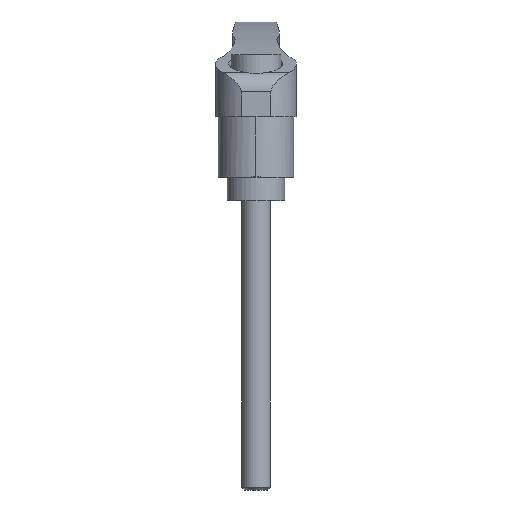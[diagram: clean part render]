
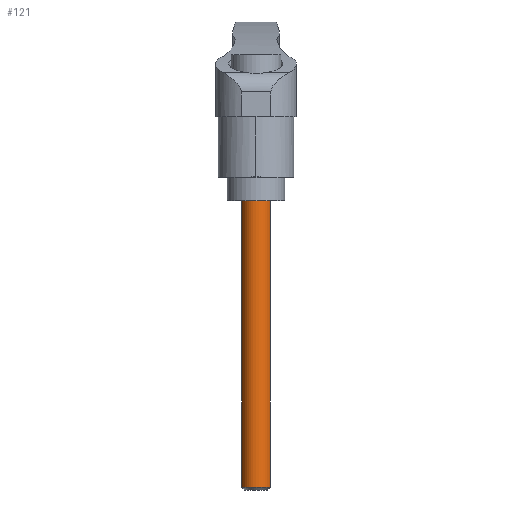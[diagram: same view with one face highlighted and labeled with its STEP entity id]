
A CAD part, left-side view. The second image highlights one B-rep face of the part: STEP entity #121.
In plain terms, the highlighted cylindrical face has radius 2.5 mm (diameter 5 mm), a partial arc.
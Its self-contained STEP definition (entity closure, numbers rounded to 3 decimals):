
#30 = CARTESIAN_POINT ( 'NONE',  ( 0., 0., -49.509 ) ) ;
#52 = VERTEX_POINT ( 'NONE', #912 ) ;
#55 = CARTESIAN_POINT ( 'NONE',  ( 0., 0., 4. ) ) ;
#121 = ADVANCED_FACE ( 'NONE', ( #264 ), #1900, .T. ) ;
#264 = FACE_OUTER_BOUND ( 'NONE', #2091, .T. ) ;
#327 = VERTEX_POINT ( 'NONE', #695 ) ;
#396 = DIRECTION ( 'NONE',  ( 0., -1., 0. ) ) ;
#489 = ORIENTED_EDGE ( 'NONE', *, *, #493, .F. ) ;
#493 = EDGE_CURVE ( 'NONE', #1200, #327, #917, .T. ) ;
#538 = LINE ( 'NONE', #1989, #1964 ) ;
#539 = CIRCLE ( 'NONE', #1758, 2.5 ) ;
#556 = DIRECTION ( 'NONE',  ( 0., 0., 1. ) ) ;
#695 = CARTESIAN_POINT ( 'NONE',  ( 0., -2.5, 0. ) ) ;
#706 = EDGE_CURVE ( 'NONE', #52, #327, #538, .T. ) ;
#729 = ORIENTED_EDGE ( 'NONE', *, *, #1563, .T. ) ;
#867 = DIRECTION ( 'NONE',  ( 0., -1., 0. ) ) ;
#912 = CARTESIAN_POINT ( 'NONE',  ( 0., -2.5, -49.509 ) ) ;
#917 = CIRCLE ( 'NONE', #2144, 2.5 ) ;
#922 = DIRECTION ( 'NONE',  ( 0., -1., 0. ) ) ;
#945 = AXIS2_PLACEMENT_3D ( 'NONE', #55, #2065, #396 ) ;
#988 = EDGE_CURVE ( 'NONE', #1469, #1200, #1839, .T. ) ;
#1080 = CARTESIAN_POINT ( 'NONE',  ( 0., 0., 0. ) ) ;
#1166 = DIRECTION ( 'NONE',  ( 0., 0., 1. ) ) ;
#1200 = VERTEX_POINT ( 'NONE', #1247 ) ;
#1247 = CARTESIAN_POINT ( 'NONE',  ( 0., 2.5, 0. ) ) ;
#1340 = ORIENTED_EDGE ( 'NONE', *, *, #988, .F. ) ;
#1404 = ORIENTED_EDGE ( 'NONE', *, *, #706, .T. ) ;
#1461 = CARTESIAN_POINT ( 'NONE',  ( 0., 2.5, 4. ) ) ;
#1469 = VERTEX_POINT ( 'NONE', #1814 ) ;
#1563 = EDGE_CURVE ( 'NONE', #1469, #52, #539, .T. ) ;
#1741 = DIRECTION ( 'NONE',  ( 0., 0., 1. ) ) ;
#1758 = AXIS2_PLACEMENT_3D ( 'NONE', #30, #556, #867 ) ;
#1814 = CARTESIAN_POINT ( 'NONE',  ( 0., 2.5, -49.509 ) ) ;
#1839 = LINE ( 'NONE', #1461, #2041 ) ;
#1900 = CYLINDRICAL_SURFACE ( 'NONE', #945, 2.5 ) ;
#1964 = VECTOR ( 'NONE', #2038, 1000. ) ;
#1989 = CARTESIAN_POINT ( 'NONE',  ( 0., -2.5, 4. ) ) ;
#2038 = DIRECTION ( 'NONE',  ( 0., 0., 1. ) ) ;
#2041 = VECTOR ( 'NONE', #1166, 1000. ) ;
#2065 = DIRECTION ( 'NONE',  ( 0., 0., 1. ) ) ;
#2091 = EDGE_LOOP ( 'NONE', ( #1340, #729, #1404, #489 ) ) ;
#2144 = AXIS2_PLACEMENT_3D ( 'NONE', #1080, #1741, #922 ) ;
